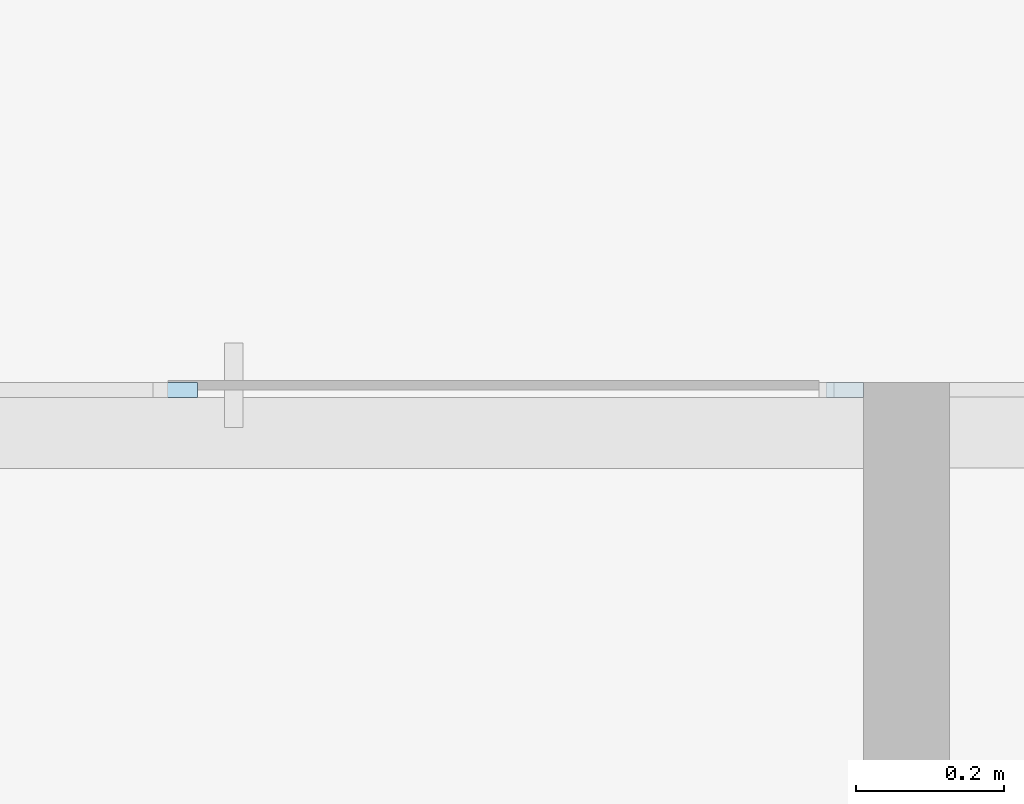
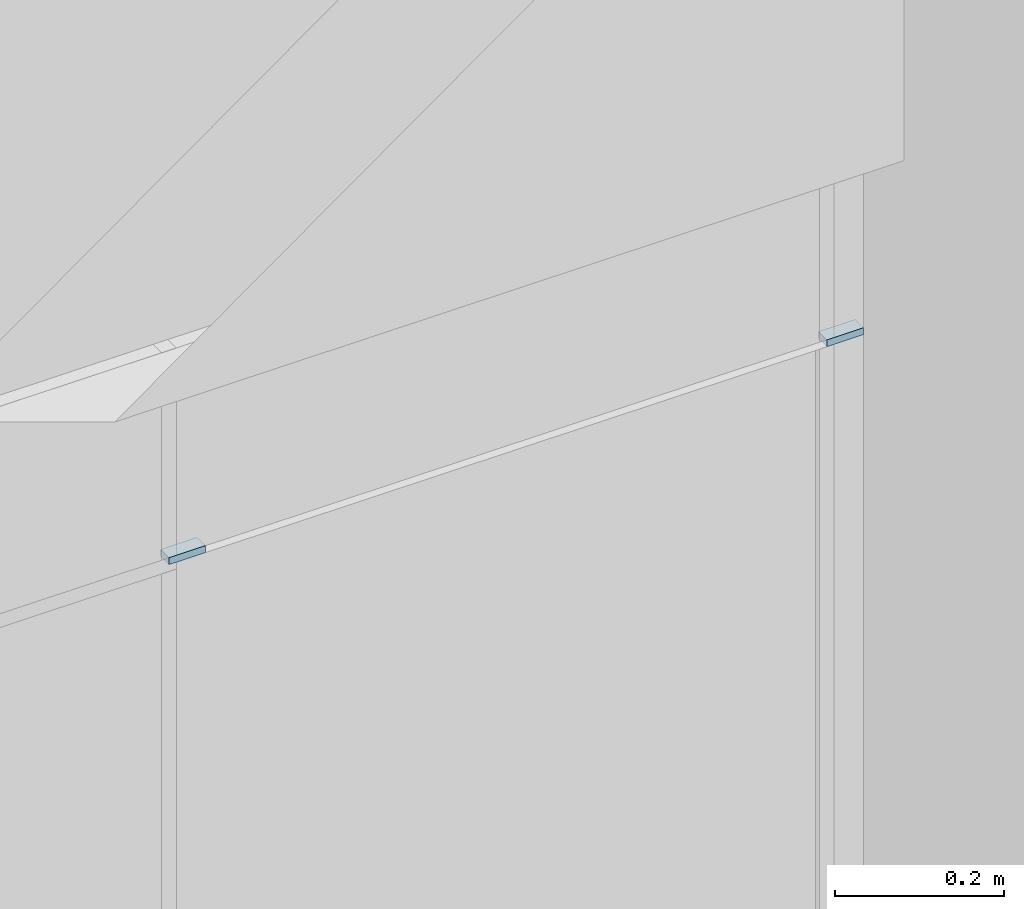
# One storey, part 22 of 46: 2 plates, 1 element without a shape of its own.
"""IFC2X3 building model written with IfcOpenShell, lengths in millimetres."""

from ifc_helpers import new_model, entity, si_unit, converted_unit, derived_unit, direction, frame, origin, origin_2d_with_axis, place, context, subcontext, project, spatial, rectangle, extrude, source, transform, mapped, material, layer, layer_set, layer_usage, type_object, type_shapes, element, aggregate, save


model = new_model("IFC2X3")

# Units and contexts
model_context = context("Model", 3, precision=0.01, world=origin(), true_north=direction((6.12303176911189e-17, 1.0)))
body_context = subcontext(model_context, "Body", "Model", "MODEL_VIEW")
ifc_project = project(units=[si_unit("LENGTHUNIT", "METRE", prefix="MILLI"), si_unit("AREAUNIT", "SQUARE_METRE"), si_unit("VOLUMEUNIT", "CUBIC_METRE"), converted_unit("PLANEANGLEUNIT", "DEGREE", entity("IfcRatioMeasure", 0.0174532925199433), si_unit("PLANEANGLEUNIT", "RADIAN"), dimensions=[0, 0, 0, 0, 0, 0, 0]), si_unit("MASSUNIT", "GRAM", prefix="KILO"), derived_unit("MASSDENSITYUNIT", [(si_unit("MASSUNIT", "GRAM", prefix="KILO"), 1), (si_unit("LENGTHUNIT", "METRE"), -3)]), si_unit("TIMEUNIT", "SECOND"), si_unit("FREQUENCYUNIT", "HERTZ"), si_unit("THERMODYNAMICTEMPERATUREUNIT", "DEGREE_CELSIUS"), derived_unit("THERMALTRANSMITTANCEUNIT", [(si_unit("MASSUNIT", "GRAM", prefix="KILO"), 1), (si_unit("THERMODYNAMICTEMPERATUREUNIT", "KELVIN"), -1), (si_unit("TIMEUNIT", "SECOND"), -3)]), derived_unit("VOLUMETRICFLOWRATEUNIT", [(si_unit("LENGTHUNIT", "METRE"), 3), (si_unit("TIMEUNIT", "SECOND"), -1)]), si_unit("ELECTRICCURRENTUNIT", "AMPERE"), si_unit("ELECTRICVOLTAGEUNIT", "VOLT"), si_unit("POWERUNIT", "WATT"), si_unit("FORCEUNIT", "NEWTON", prefix="KILO"), si_unit("ILLUMINANCEUNIT", "LUX"), si_unit("LUMINOUSFLUXUNIT", "LUMEN"), si_unit("LUMINOUSINTENSITYUNIT", "CANDELA"), derived_unit("USERDEFINED", [(si_unit("MASSUNIT", "GRAM", prefix="KILO"), -1), (si_unit("LENGTHUNIT", "METRE"), -2), (si_unit("TIMEUNIT", "SECOND"), 3), (si_unit("LUMINOUSFLUXUNIT", "LUMEN"), 1)]), derived_unit("LINEARVELOCITYUNIT", [(si_unit("LENGTHUNIT", "METRE"), 1), (si_unit("TIMEUNIT", "SECOND"), -1)]), si_unit("PRESSUREUNIT", "PASCAL"), derived_unit("USERDEFINED", [(si_unit("LENGTHUNIT", "METRE"), -2), (si_unit("MASSUNIT", "GRAM", prefix="KILO"), 1), (si_unit("TIMEUNIT", "SECOND"), -2)])], contexts=[model_context])

# Site, building, storey
site_placement = place(None, frame((-151.875543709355, 2715.0, 0.0)))
site = spatial("IfcSite", under=ifc_project, at=site_placement, Name="Surface", CompositionType="ELEMENT")
building_placement = place(site_placement, origin())
building = spatial("IfcBuilding", under=site, at=building_placement, CompositionType="ELEMENT")
storey_placement = place(building_placement, frame((0.0, 0.0, 10060.0)))
storey = spatial("IfcBuildingStorey", under=building, at=storey_placement, Name="4 korrus", CompositionType="ELEMENT", Elevation=10060.0000000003)

# Curtain wall, plates
curtain_wall_type = type_object("IfcCurtainWallType", Name="Curtain Wall:Klaassein KLS-24", PredefinedType="NOTDEFINED")
curtain_wall_placement = place(storey_placement, frame((0.0, 0.0, -10060.0)))
curtain_wall = element("IfcCurtainWall", 1, at=curtain_wall_placement, inside=storey, type_object=curtain_wall_type, Name="Curtain Wall:Klaassein KLS-24", ObjectType="Curtain Wall:Klaassein KLS-24")
ifc_material = material(Name="<Unnamed>")
ifc_layer = layer(ifc_material, 20.0)
ifc_layer_set = layer_set([ifc_layer], Name="Curtain Wall:Klaassein KLS-01")
ifc_layer_usage_1 = layer_usage(ifc_layer_set, "AXIS3", "POSITIVE", 0.0)
plate_type_1 = type_object("IfcPlateType", Name="Glazed", PredefinedType="CURTAIN_PANEL", material=ifc_layer_set)
shared_shape_1 = source(origin(), body_context, "Body", "SweptSolid", [
    extrude(rectangle(XDim=20.0, YDim=49.9999999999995, at=origin_2d_with_axis()), frame((0.0, 0.0, 0.0), z_axis=(0.0, 0.0, 1.0), x_axis=(0.0, 1.0, 0.0)), (0.0, 0.0, 1.0), 9.99999999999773),
])
type_shapes(plate_type_1, [shared_shape_1])
plate_1_placement = place(curtain_wall_placement, frame((8976.56472640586, 4355.0449339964, 12150.0), z_axis=(0.0, 0.0, 1.0), x_axis=(-1.0, 0.0, 0.0)))
plate_1 = element("IfcPlate", 2, at=plate_1_placement, type_object=plate_type_1, material=ifc_layer_usage_1, Name="System Panel:Glazed", ObjectType="Glazed", context=body_context, shape_type="MappedRepresentation", body=[
    mapped(shared_shape_1, transform((0.0, 0.0, 0.0), scale=1.0)),
])
ifc_layer_usage_2 = layer_usage(ifc_layer_set, "AXIS3", "POSITIVE", 0.0)
plate_type_2 = type_object("IfcPlateType", Name="Glazed", PredefinedType="CURTAIN_PANEL", material=ifc_layer_set)
shared_shape_2 = source(origin(), body_context, "Body", "SweptSolid", [
    extrude(rectangle(XDim=20.0, YDim=49.9999996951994, at=origin_2d_with_axis()), frame((0.0, 0.0, 0.0), z_axis=(0.0, 0.0, 1.0), x_axis=(0.0, 1.0, 0.0)), (0.0, 0.0, 1.0), 9.99999999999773),
])
type_shapes(plate_type_2, [shared_shape_2])
plate_2_placement = place(curtain_wall_placement, frame((8076.56472625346, 4355.0449339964, 12150.0), z_axis=(0.0, 0.0, 1.0), x_axis=(-1.0, 0.0, 0.0)))
plate_2 = element("IfcPlate", 3, at=plate_2_placement, type_object=plate_type_2, material=ifc_layer_usage_2, Name="System Panel:Glazed", ObjectType="Glazed", context=body_context, shape_type="MappedRepresentation", body=[
    mapped(shared_shape_2, transform((0.0, 0.0, 0.0), scale=1.0)),
])
aggregate(curtain_wall, [plate_1, plate_2])

save(model, "model.ifc")
